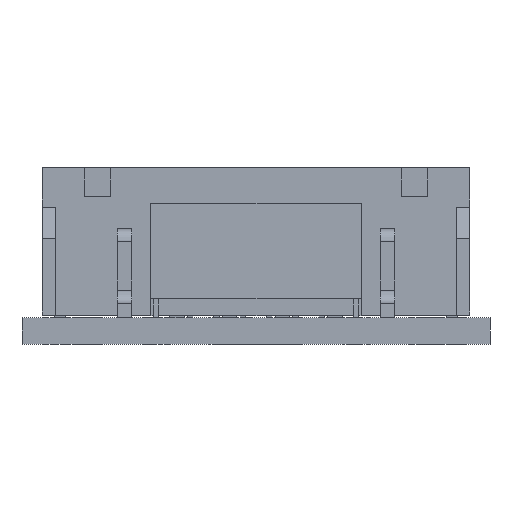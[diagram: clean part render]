
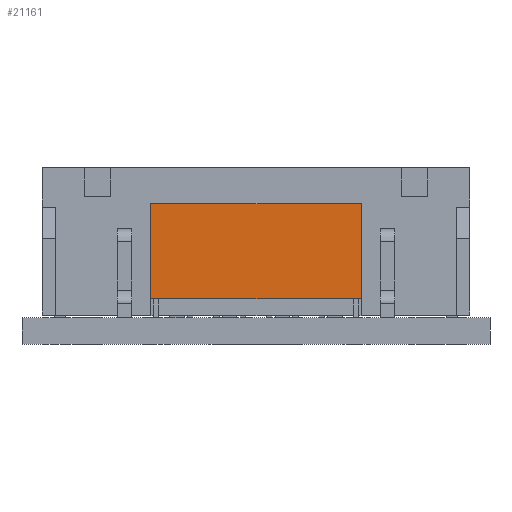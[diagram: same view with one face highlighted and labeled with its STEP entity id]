
A CAD part, front view. The second image highlights one B-rep face of the part: STEP entity #21161.
In plain terms, the highlighted planar face has unit normal (0, -1, 0).
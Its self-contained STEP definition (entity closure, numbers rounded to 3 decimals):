
#185 = DIRECTION ( 'NONE',  ( 1., 0., 0. ) ) ;
#279 = LINE ( 'NONE', #23155, #3435 ) ;
#1851 = VECTOR ( 'NONE', #6087, 1000. ) ;
#1899 = DIRECTION ( 'NONE',  ( 0., 1., 0. ) ) ;
#2053 = EDGE_CURVE ( 'NONE', #27427, #31885, #279, .T. ) ;
#3078 = CARTESIAN_POINT ( 'NONE',  ( 12.89, 4.265, 1.736 ) ) ;
#3435 = VECTOR ( 'NONE', #34586, 1000. ) ;
#4342 = EDGE_CURVE ( 'NONE', #31885, #27362, #10343, .T. ) ;
#4560 = ORIENTED_EDGE ( 'NONE', *, *, #5257, .F. ) ;
#5257 = EDGE_CURVE ( 'NONE', #34263, #27362, #11853, .T. ) ;
#6087 = DIRECTION ( 'NONE',  ( 1., 0., 0. ) ) ;
#7273 = CARTESIAN_POINT ( 'NONE',  ( 4.89, 4.265, 5.336 ) ) ;
#7824 = EDGE_LOOP ( 'NONE', ( #27112, #8353, #4560, #12986 ) ) ;
#8179 = CARTESIAN_POINT ( 'NONE',  ( 12.89, 4.265, 5.336 ) ) ;
#8353 = ORIENTED_EDGE ( 'NONE', *, *, #4342, .T. ) ;
#10343 = LINE ( 'NONE', #27659, #22288 ) ;
#11853 = LINE ( 'NONE', #23343, #12534 ) ;
#12534 = VECTOR ( 'NONE', #20738, 1000. ) ;
#12986 = ORIENTED_EDGE ( 'NONE', *, *, #27145, .F. ) ;
#14183 = AXIS2_PLACEMENT_3D ( 'NONE', #7273, #1899, #19163 ) ;
#14609 = PLANE ( 'NONE',  #14183 ) ;
#17358 = CARTESIAN_POINT ( 'NONE',  ( 4.89, 4.265, 5.336 ) ) ;
#19163 = DIRECTION ( 'NONE',  ( -1., 0., 0. ) ) ;
#20738 = DIRECTION ( 'NONE',  ( 0., 0., -1. ) ) ;
#21161 = ADVANCED_FACE ( 'NONE', ( #32430 ), #14609, .F. ) ;
#22288 = VECTOR ( 'NONE', #185, 1000. ) ;
#23155 = CARTESIAN_POINT ( 'NONE',  ( 4.89, 4.265, 5.336 ) ) ;
#23343 = CARTESIAN_POINT ( 'NONE',  ( 12.89, 4.265, 5.336 ) ) ;
#25646 = CARTESIAN_POINT ( 'NONE',  ( 4.89, 4.265, 1.736 ) ) ;
#26844 = CARTESIAN_POINT ( 'NONE',  ( 4.89, 4.265, 5.336 ) ) ;
#27112 = ORIENTED_EDGE ( 'NONE', *, *, #2053, .T. ) ;
#27145 = EDGE_CURVE ( 'NONE', #27427, #34263, #33764, .T. ) ;
#27362 = VERTEX_POINT ( 'NONE', #3078 ) ;
#27427 = VERTEX_POINT ( 'NONE', #26844 ) ;
#27659 = CARTESIAN_POINT ( 'NONE',  ( 4.89, 4.265, 1.736 ) ) ;
#31885 = VERTEX_POINT ( 'NONE', #25646 ) ;
#32430 = FACE_OUTER_BOUND ( 'NONE', #7824, .T. ) ;
#33764 = LINE ( 'NONE', #17358, #1851 ) ;
#34263 = VERTEX_POINT ( 'NONE', #8179 ) ;
#34586 = DIRECTION ( 'NONE',  ( 0., 0., -1. ) ) ;
